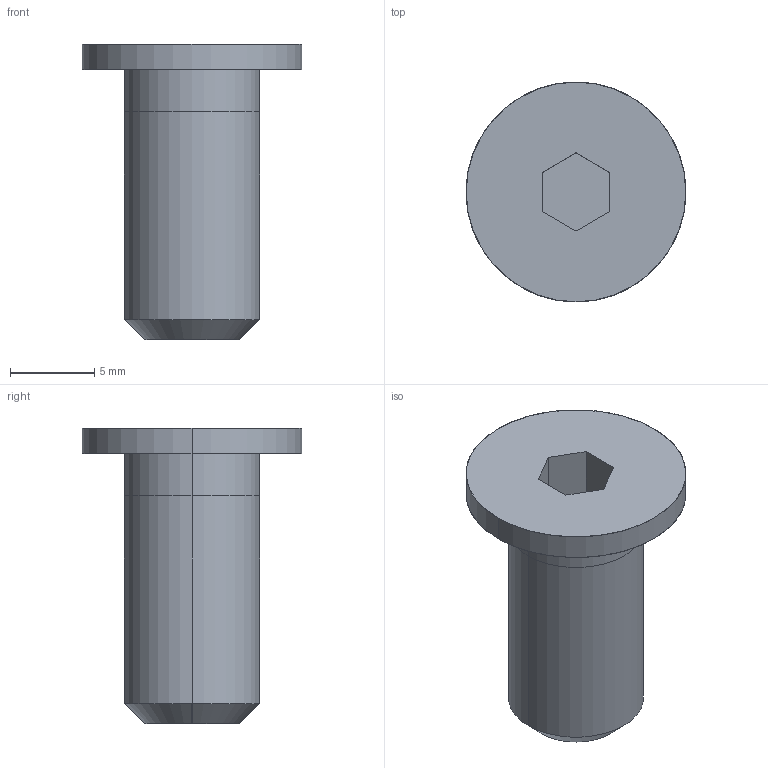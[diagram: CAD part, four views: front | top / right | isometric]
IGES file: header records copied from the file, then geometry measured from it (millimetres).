
Global section: file name: E:\UnigraphicsGraphicData\MISUMI_PRESS-PARTS\IGES\3d_cbss8-16_03491_r00.igs; native system: NX V5.0; preprocessor: UGS NX IGES V5.0; author: MISUMI; date: 20110105.160203; units: millimetre
Bounding box: 13 x 13 x 17.5 mm (x, y, z)
Surface area: 779.4 mm2 (no closed solid volume)
Topology: 0 solids, 0 shells, 18 faces, 100 edges, 100 vertices
Faces by surface type: bspline 18
